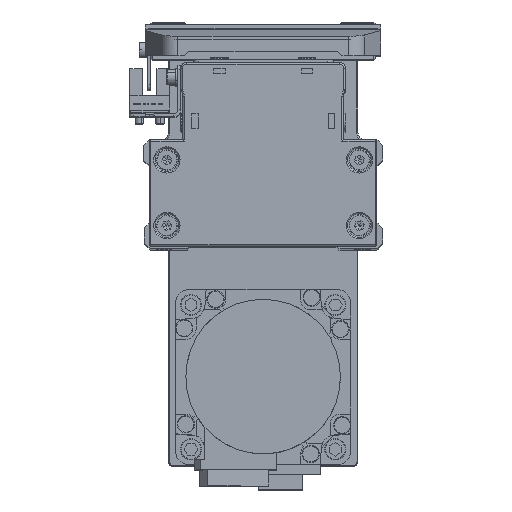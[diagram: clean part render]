
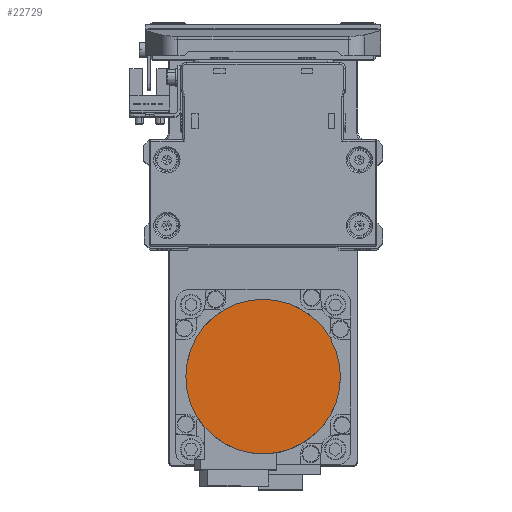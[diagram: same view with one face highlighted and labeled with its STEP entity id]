
A CAD part, top view. The second image highlights one B-rep face of the part: STEP entity #22729.
In plain terms, the highlighted planar face has unit normal (0, 0, 1) as drawn and (0, 0, -1) by its records, which use the part's own axes.
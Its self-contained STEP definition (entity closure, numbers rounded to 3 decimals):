
#1056 = CARTESIAN_POINT ( 'NONE',  ( -26.5, 0., -109.7 ) ) ;
#2359 = PLANE ( 'NONE',  #13809 ) ;
#3663 = CARTESIAN_POINT ( 'NONE',  ( 26.5, 0., -109.7 ) ) ;
#5223 = DIRECTION ( 'NONE',  ( 0., 0., 1. ) ) ;
#5278 = EDGE_CURVE ( 'NONE', #33212, #7955, #6378, .T. ) ;
#5304 = ORIENTED_EDGE ( 'NONE', *, *, #22436, .F. ) ;
#6378 = CIRCLE ( 'NONE', #11596, 26.5 ) ;
#6681 = CARTESIAN_POINT ( 'NONE',  ( 0., 0., -109.7 ) ) ;
#7955 = VERTEX_POINT ( 'NONE', #1056 ) ;
#11596 = AXIS2_PLACEMENT_3D ( 'NONE', #33131, #5223, #17664 ) ;
#13809 = AXIS2_PLACEMENT_3D ( 'NONE', #14803, #27243, #39643 ) ;
#14803 = CARTESIAN_POINT ( 'NONE',  ( 0., 0., -109.7 ) ) ;
#17664 = DIRECTION ( 'NONE',  ( 1., 0., 0. ) ) ;
#17958 = ORIENTED_EDGE ( 'NONE', *, *, #5278, .F. ) ;
#19111 = DIRECTION ( 'NONE',  ( 0., 0., 1. ) ) ;
#22253 = AXIS2_PLACEMENT_3D ( 'NONE', #6681, #19111, #31529 ) ;
#22436 = EDGE_CURVE ( 'NONE', #7955, #33212, #39790, .T. ) ;
#22729 = ADVANCED_FACE ( 'NONE', ( #30280 ), #2359, .F. ) ;
#25850 = EDGE_LOOP ( 'NONE', ( #5304, #17958 ) ) ;
#27243 = DIRECTION ( 'NONE',  ( 0., 0., 1. ) ) ;
#30280 = FACE_OUTER_BOUND ( 'NONE', #25850, .T. ) ;
#31529 = DIRECTION ( 'NONE',  ( -1., 0., 0. ) ) ;
#33131 = CARTESIAN_POINT ( 'NONE',  ( 0., 0., -109.7 ) ) ;
#33212 = VERTEX_POINT ( 'NONE', #3663 ) ;
#39643 = DIRECTION ( 'NONE',  ( 1., 0., 0. ) ) ;
#39790 = CIRCLE ( 'NONE', #22253, 26.5 ) ;
